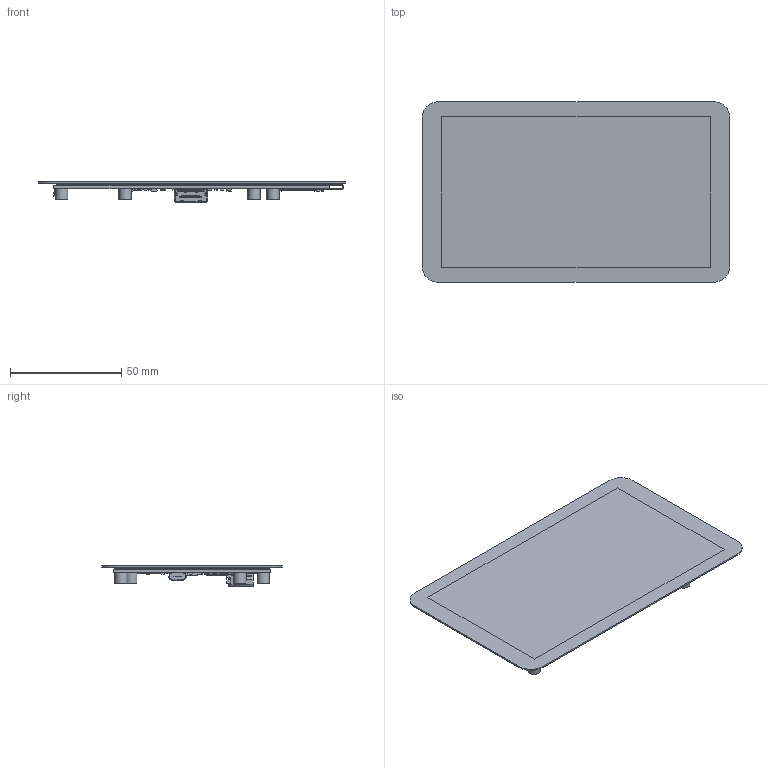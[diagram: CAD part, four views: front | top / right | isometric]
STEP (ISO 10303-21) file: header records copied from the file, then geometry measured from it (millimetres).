
FILE_DESCRIPTION(/* description */ (''),/* implementation_level */ '2;1');
FILE_NAME(/* name */ '未命名',/* time_stamp */ '2024-02-26T13:58:02+08:00',/* author */ (''),/* organization */ (''),/* preprocessor_version */ 'ST-DEVELOPER v16.5',/* originating_system */ '',/* authorisation */ '');
FILE_SCHEMA (('AUTOMOTIVE_DESIGN'));
Products named in the file (1): Document
Bounding box: 138.2 x 81 x 9.41 mm (x, y, z)
Volume: 31780.9 mm3; surface area: 102216.4 mm2
Topology: 127 solids, 127 shells, 6523 faces, 16200 edges, 9364 vertices
Faces by surface type: plane 3464, bspline 3059
Entity records: 222191 total; most frequent: CARTESIAN_POINT 122910, ORIENTED_EDGE 31048, EDGE_CURVE 15524, B_SPLINE_CURVE_WITH_KNOTS 11428, VERTEX_POINT 9364, EDGE_LOOP 6706, ADVANCED_FACE 6523, FACE_OUTER_BOUND 6523
